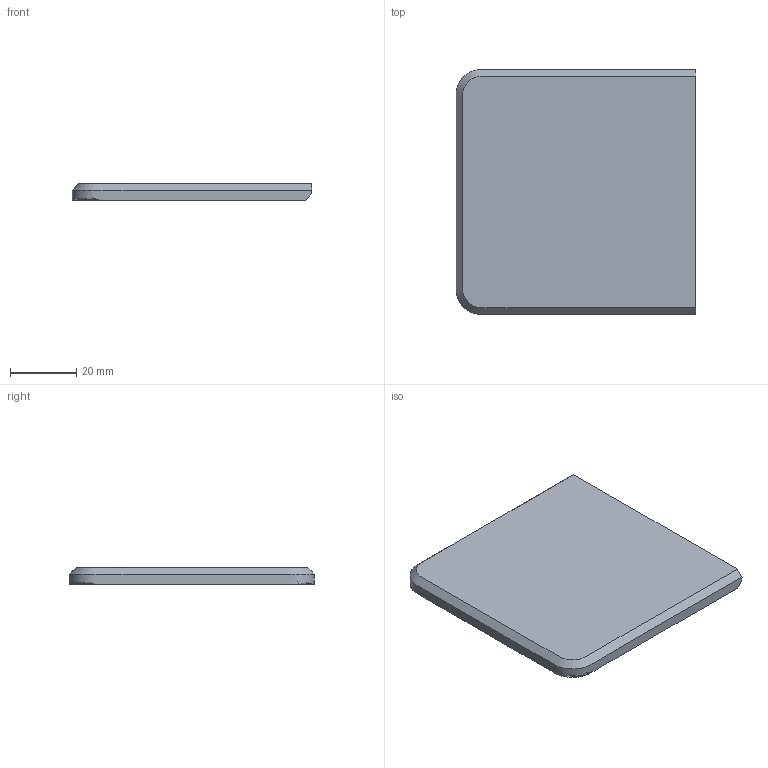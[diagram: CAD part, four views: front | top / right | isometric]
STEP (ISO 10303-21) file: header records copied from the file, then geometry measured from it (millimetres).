
FILE_DESCRIPTION(/* description */ (''),/* implementation_level */ '2;1');
FILE_NAME(/* name */ 'front',/* time_stamp */ '2022-01-04T22:38:46+01:00',/* author */ (''),/* organization */ (''),/* preprocessor_version */ 'ST-DEVELOPER v10',/* originating_system */ '',/* authorisation */ '');
FILE_SCHEMA (('CONFIG_CONTROL_DESIGN'));
Length unit declared in the file: millimetre
Products named in the file (1): 1
Bounding box: 72.2 x 73.7 x 5.08 mm (x, y, z)
Volume: 9417.8 mm3; surface area: 15070.9 mm2
Topology: 1 solids, 1 shells, 343 faces, 827 edges, 550 vertices
Faces by surface type: plane 338, bspline 5
Entity records: 10905 total; most frequent: CARTESIAN_POINT 4779, ORIENTED_EDGE 1654, EDGE_CURVE 827, B_SPLINE_CURVE_WITH_KNOTS 827, VERTEX_POINT 550, EDGE_LOOP 407, ADVANCED_FACE 343, FACE_OUTER_BOUND 343
